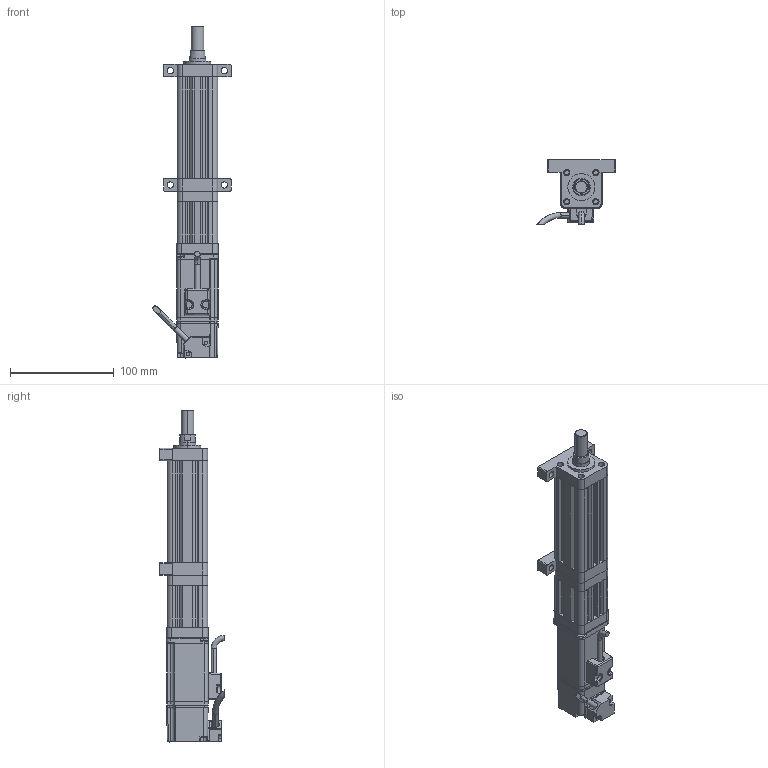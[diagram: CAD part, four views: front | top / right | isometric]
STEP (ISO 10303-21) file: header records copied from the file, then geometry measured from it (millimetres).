
FILE_DESCRIPTION (( 'STEP AP214' ), '1' );
FILE_NAME ('039-S50-D02-A-M2-C1-2.STEP', '2021-03-02T05:32:59', ( '' ), ( '' ), 'SwSTEP 2.0', 'SolidWorks 2018', '' );
FILE_SCHEMA (( 'AUTOMOTIVE_DESIGN' ));
Length unit declared in the file: millimetre
Products named in the file (9): CMC039-DJZ; ECMA-CX0401ES-40框號系列機種-100W低慣量系列; CMC039-ZLLJB; CMC039-HDB; CMC039-DT; CMC039-QDB; CMC039-AZB; CMC039-GT; 039-S50-D02-A-M2-C1-2
Assembly tree (8 placements, depth 2):
  039-S50-D02-A-M2-C1-2
    CMC039-GT
    CMC039-DT
    CMC039-ZLLJB
    CMC039-DJZ
    ECMA-CX0401ES-40框號系列機種-100W低慣量系列
    CMC039-AZB
    CMC039-HDB
    CMC039-QDB
Bounding box: 75.34 x 61.89 x 319.6 mm (x, y, z)
Volume: 364325.2 mm3; surface area: 104972.4 mm2
Topology: 8 solids, 16 shells, 738 faces, 1946 edges, 1225 vertices
Faces by surface type: cylinder 308, plane 307, bspline 84, cone 39
Entity records: 29028 total; most frequent: CARTESIAN_POINT 11402, ORIENTED_EDGE 3826, DIRECTION 3171, EDGE_CURVE 1913, VERTEX_POINT 1225, AXIS2_PLACEMENT_3D 1081, LINE 1009, VECTOR 1009
